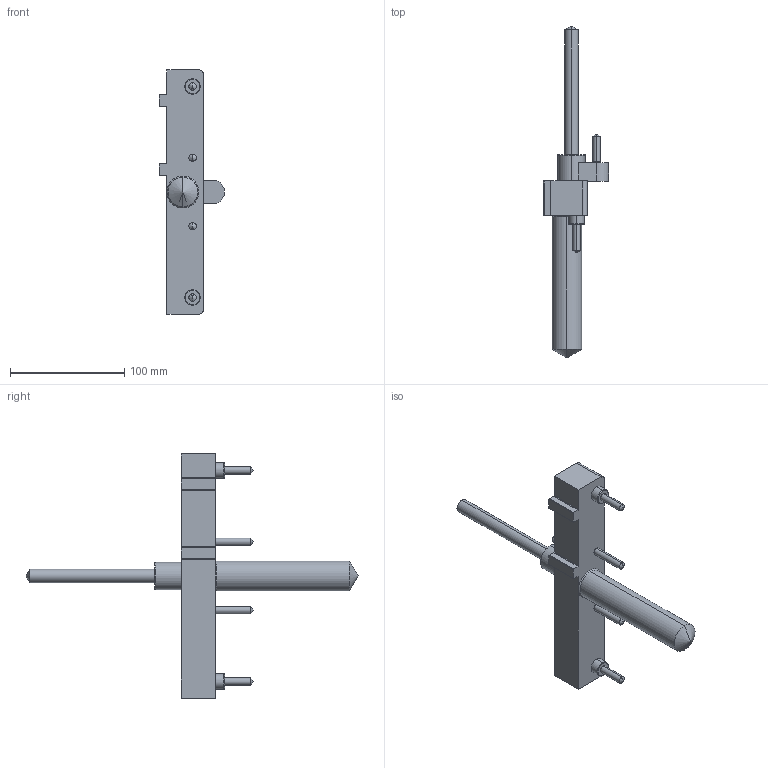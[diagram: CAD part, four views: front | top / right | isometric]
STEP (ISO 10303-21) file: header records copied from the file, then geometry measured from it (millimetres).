
FILE_DESCRIPTION (( 'STEP AP214' ), '1' );
FILE_NAME ('LS20100L_False_cut_LS_sim.STEP', '2024-09-18T09:12:08', ( '' ), ( '' ), 'SwSTEP 2.0', 'SolidWorks 2021', '' );
FILE_SCHEMA (( 'AUTOMOTIVE_DESIGN' ));
Length unit declared in the file: millimetre
Products named in the file (1): LS20100L_False_cut_LS_sim
Bounding box: 57 x 291 x 214 mm (x, y, z)
Volume: 309628.1 mm3; surface area: 49531.2 mm2
Topology: 1 solids, 1 shells, 83 faces, 208 edges, 121 vertices
Faces by surface type: cylinder 30, plane 25, cone 20, torus 8
Entity records: 2414 total; most frequent: DIRECTION 442, CARTESIAN_POINT 413, ORIENTED_EDGE 388, EDGE_CURVE 194, AXIS2_PLACEMENT_3D 166, VERTEX_POINT 121, VECTOR 110, LINE 110
